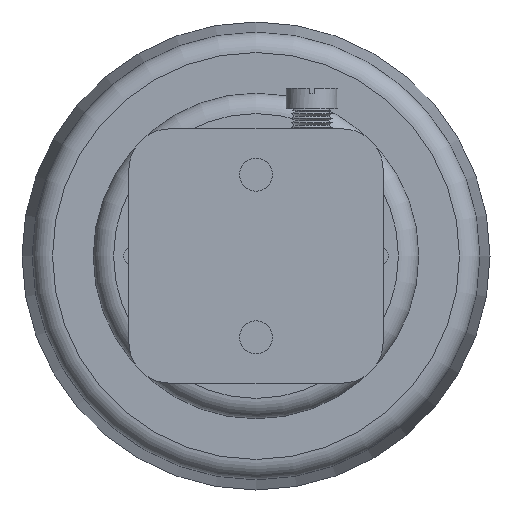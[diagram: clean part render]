
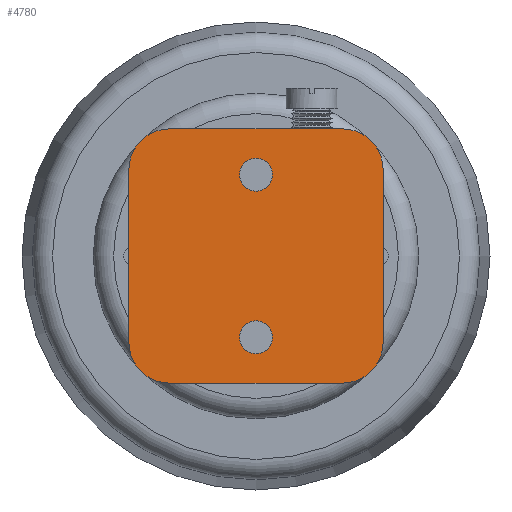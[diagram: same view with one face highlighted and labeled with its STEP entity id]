
A CAD part, front view. The second image highlights one B-rep face of the part: STEP entity #4780.
In plain terms, the highlighted planar face has unit normal (0, -1, 0).
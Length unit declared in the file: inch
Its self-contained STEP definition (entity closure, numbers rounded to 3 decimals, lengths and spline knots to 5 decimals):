
#4 = VERTEX_POINT ( 'NONE', #5321 ) ;
#11 = VERTEX_POINT ( 'NONE', #4760 ) ;
#14 = VERTEX_POINT ( 'NONE', #208 ) ;
#15 = VERTEX_POINT ( 'NONE', #5214 ) ;
#47 = EDGE_LOOP ( 'NONE', ( #727 ) ) ;
#75 = VERTEX_POINT ( 'NONE', #691 ) ;
#108 = EDGE_LOOP ( 'NONE', ( #728, #729, #730, #731, #732, #733, #734, #735 ) ) ;
#138 = VERTEX_POINT ( 'NONE', #1146 ) ;
#159 = EDGE_LOOP ( 'NONE', ( #726 ) ) ;
#208 = CARTESIAN_POINT ( 'NONE',  ( 1.0625, -2.255, 1.5625 ) ) ;
#245 = EDGE_CURVE ( 'NONE', #2544, #2544, #1622, .T. ) ;
#275 = EDGE_CURVE ( 'NONE', #4, #5525, #1668, .T. ) ;
#281 = EDGE_CURVE ( 'NONE', #15, #14, #1678, .T. ) ;
#282 = EDGE_CURVE ( 'NONE', #5350, #75, #1679, .T. ) ;
#283 = EDGE_CURVE ( 'NONE', #11, #138, #1680, .T. ) ;
#465 = AXIS2_PLACEMENT_3D ( 'NONE', #1294, #1295, #1296 ) ;
#479 = AXIS2_PLACEMENT_3D ( 'NONE', #1366, #1367, #1368 ) ;
#483 = AXIS2_PLACEMENT_3D ( 'NONE', #1382, #1383, #1384 ) ;
#484 = AXIS2_PLACEMENT_3D ( 'NONE', #1385, #1386, #1387 ) ;
#485 = AXIS2_PLACEMENT_3D ( 'NONE', #1388, #1389, #1390 ) ;
#619 = AXIS2_PLACEMENT_3D ( 'NONE', #2894, #2890, #2896 ) ;
#691 = CARTESIAN_POINT ( 'NONE',  ( -1.5625, -2.255, 1.0625 ) ) ;
#726 = ORIENTED_EDGE ( 'NONE', *, *, #245, .T. ) ;
#727 = ORIENTED_EDGE ( 'NONE', *, *, #5308, .T. ) ;
#728 = ORIENTED_EDGE ( 'NONE', *, *, #5305, .F. ) ;
#729 = ORIENTED_EDGE ( 'NONE', *, *, #275, .T. ) ;
#730 = ORIENTED_EDGE ( 'NONE', *, *, #5300, .F. ) ;
#731 = ORIENTED_EDGE ( 'NONE', *, *, #283, .T. ) ;
#732 = ORIENTED_EDGE ( 'NONE', *, *, #5314, .F. ) ;
#733 = ORIENTED_EDGE ( 'NONE', *, *, #281, .T. ) ;
#734 = ORIENTED_EDGE ( 'NONE', *, *, #5317, .F. ) ;
#735 = ORIENTED_EDGE ( 'NONE', *, *, #282, .T. ) ;
#1146 = CARTESIAN_POINT ( 'NONE',  ( 1.5625, -2.255, -1.0625 ) ) ;
#1294 = CARTESIAN_POINT ( 'NONE',  ( 0., -2.255, 1. ) ) ;
#1295 = DIRECTION ( 'NONE',  ( 0., 1., 0. ) ) ;
#1296 = DIRECTION ( 'NONE',  ( -1., 0., 0. ) ) ;
#1366 = CARTESIAN_POINT ( 'NONE',  ( -1.0625, -2.255, -1.0625 ) ) ;
#1367 = DIRECTION ( 'NONE',  ( 0., -1., 0. ) ) ;
#1368 = DIRECTION ( 'NONE',  ( -1., 0., 0. ) ) ;
#1382 = CARTESIAN_POINT ( 'NONE',  ( 1.0625, -2.255, 1.0625 ) ) ;
#1383 = DIRECTION ( 'NONE',  ( 0., -1., 0. ) ) ;
#1384 = DIRECTION ( 'NONE',  ( -1., 0., 0. ) ) ;
#1385 = CARTESIAN_POINT ( 'NONE',  ( -1.0625, -2.255, 1.0625 ) ) ;
#1386 = DIRECTION ( 'NONE',  ( 0., -1., 0. ) ) ;
#1387 = DIRECTION ( 'NONE',  ( -1., 0., 0. ) ) ;
#1388 = CARTESIAN_POINT ( 'NONE',  ( 1.0625, -2.255, -1.0625 ) ) ;
#1389 = DIRECTION ( 'NONE',  ( 0., -1., 0. ) ) ;
#1390 = DIRECTION ( 'NONE',  ( -1., 0., 0. ) ) ;
#1622 = CIRCLE ( 'NONE', #465, 0.203 ) ;
#1668 = CIRCLE ( 'NONE', #479, 0.5 ) ;
#1678 = CIRCLE ( 'NONE', #483, 0.5 ) ;
#1679 = CIRCLE ( 'NONE', #484, 0.5 ) ;
#1680 = CIRCLE ( 'NONE', #485, 0.5 ) ;
#1846 = FACE_OUTER_BOUND ( 'NONE', #108, .T. ) ;
#1847 = FACE_BOUND ( 'NONE', #159, .T. ) ;
#1849 = FACE_BOUND ( 'NONE', #47, .T. ) ;
#2469 = LINE ( 'NONE', #4290, #2503 ) ;
#2477 = LINE ( 'NONE', #4282, #2515 ) ;
#2503 = VECTOR ( 'NONE', #4278, 39.37008 ) ;
#2515 = VECTOR ( 'NONE', #4299, 39.37008 ) ;
#2520 = CIRCLE ( 'NONE', #3910, 0.203 ) ;
#2523 = LINE ( 'NONE', #4316, #2534 ) ;
#2525 = LINE ( 'NONE', #4323, #2528 ) ;
#2528 = VECTOR ( 'NONE', #4324, 39.37008 ) ;
#2534 = VECTOR ( 'NONE', #4330, 39.37008 ) ;
#2544 = VERTEX_POINT ( 'NONE', #4390 ) ;
#2890 = DIRECTION ( 'NONE',  ( 0., 1., 0. ) ) ;
#2894 = CARTESIAN_POINT ( 'NONE',  ( -1.5625, -2.255, -1.5625 ) ) ;
#2895 = PLANE ( 'NONE',  #619 ) ;
#2896 = DIRECTION ( 'NONE',  ( -1., 0., 0. ) ) ;
#3910 = AXIS2_PLACEMENT_3D ( 'NONE', #4305, #4306, #4307 ) ;
#4278 = DIRECTION ( 'NONE',  ( -1., 0., 0. ) ) ;
#4282 = CARTESIAN_POINT ( 'NONE',  ( -1.5625, -2.255, -1.5625 ) ) ;
#4290 = CARTESIAN_POINT ( 'NONE',  ( 1.5625, -2.255, -1.5625 ) ) ;
#4299 = DIRECTION ( 'NONE',  ( 0., 0., 1. ) ) ;
#4305 = CARTESIAN_POINT ( 'NONE',  ( 0., -2.255, -1. ) ) ;
#4306 = DIRECTION ( 'NONE',  ( 0., 1., 0. ) ) ;
#4307 = DIRECTION ( 'NONE',  ( -1., 0., 0. ) ) ;
#4316 = CARTESIAN_POINT ( 'NONE',  ( 1.5625, -2.255, 1.5625 ) ) ;
#4323 = CARTESIAN_POINT ( 'NONE',  ( 1.5625, -2.255, -1.5625 ) ) ;
#4324 = DIRECTION ( 'NONE',  ( 0., 0., -1. ) ) ;
#4330 = DIRECTION ( 'NONE',  ( 1., 0., 0. ) ) ;
#4334 = CARTESIAN_POINT ( 'NONE',  ( -1.0625, -2.255, 1.5625 ) ) ;
#4383 = CARTESIAN_POINT ( 'NONE',  ( -1.0625, -2.255, -1.5625 ) ) ;
#4390 = CARTESIAN_POINT ( 'NONE',  ( -0.203, -2.255, 1. ) ) ;
#4565 = CARTESIAN_POINT ( 'NONE',  ( -0.203, -2.255, -1. ) ) ;
#4637 = VERTEX_POINT ( 'NONE', #4565 ) ;
#4760 = CARTESIAN_POINT ( 'NONE',  ( 1.0625, -2.255, -1.5625 ) ) ;
#4780 = ADVANCED_FACE ( 'NONE', ( #1847, #1849, #1846 ), #2895, .F. ) ;
#5214 = CARTESIAN_POINT ( 'NONE',  ( 1.5625, -2.255, 1.0625 ) ) ;
#5300 = EDGE_CURVE ( 'NONE', #11, #5525, #2469, .T. ) ;
#5305 = EDGE_CURVE ( 'NONE', #4, #75, #2477, .T. ) ;
#5308 = EDGE_CURVE ( 'NONE', #4637, #4637, #2520, .T. ) ;
#5314 = EDGE_CURVE ( 'NONE', #15, #138, #2525, .T. ) ;
#5317 = EDGE_CURVE ( 'NONE', #5350, #14, #2523, .T. ) ;
#5321 = CARTESIAN_POINT ( 'NONE',  ( -1.5625, -2.255, -1.0625 ) ) ;
#5350 = VERTEX_POINT ( 'NONE', #4334 ) ;
#5525 = VERTEX_POINT ( 'NONE', #4383 ) ;
